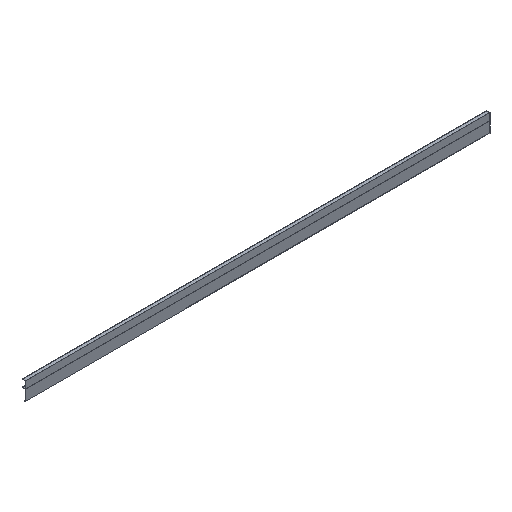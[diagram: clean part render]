
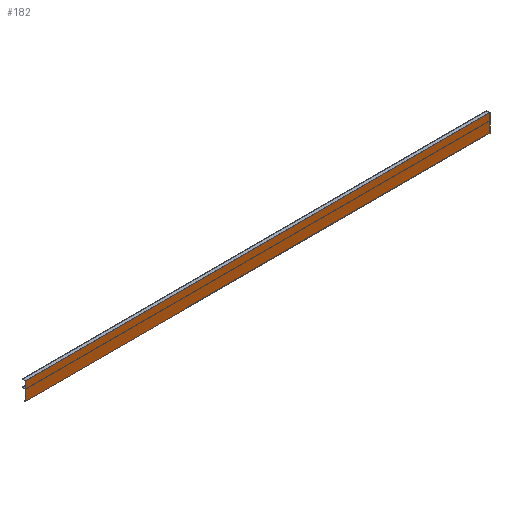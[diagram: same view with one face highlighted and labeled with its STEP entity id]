
A CAD part, isometric view. The second image highlights one B-rep face of the part: STEP entity #182.
In plain terms, the highlighted planar face has unit normal (0, -1, 0).
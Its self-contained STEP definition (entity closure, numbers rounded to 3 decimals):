
#182=ADVANCED_FACE('',(#372),#373,.T.);
#372=FACE_OUTER_BOUND('',#563,.T.);
#373=PLANE('',#564);
#563=EDGE_LOOP('',(#1053,#1054,#1055,#1056));
#564=AXIS2_PLACEMENT_3D('',#1057,#1058,#1059);
#1053=ORIENTED_EDGE('',*,*,#1317,.T.);
#1054=ORIENTED_EDGE('',*,*,#1347,.F.);
#1055=ORIENTED_EDGE('',*,*,#1348,.F.);
#1056=ORIENTED_EDGE('',*,*,#1344,.T.);
#1057=CARTESIAN_POINT('',(0.0,-15.5,0.0));
#1058=DIRECTION('',(0.0,-1.0,0.0));
#1059=DIRECTION('',(0.0,0.0,-1.0));
#1317=EDGE_CURVE('',#1618,#1616,#1619,.T.);
#1344=EDGE_CURVE('',#1660,#1618,#1661,.T.);
#1347=EDGE_CURVE('',#1664,#1616,#1665,.T.);
#1348=EDGE_CURVE('',#1660,#1664,#1666,.T.);
#1616=VERTEX_POINT('',#2019);
#1618=VERTEX_POINT('',#2022);
#1619=LINE('',#2023,#2024);
#1660=VERTEX_POINT('',#2085);
#1661=LINE('',#2086,#2087);
#1664=VERTEX_POINT('',#2091);
#1665=LINE('',#2092,#2093);
#1666=LINE('',#2094,#2095);
#2019=CARTESIAN_POINT('',(2050.0,-15.5,0.0));
#2022=CARTESIAN_POINT('',(2050.0,-15.5,-79.0));
#2023=CARTESIAN_POINT('',(2050.0,-15.5,-15.25));
#2024=VECTOR('',#2346,1.0);
#2085=CARTESIAN_POINT('',(0.0,-15.5,-79.0));
#2086=CARTESIAN_POINT('',(0.0,-15.5,-79.0));
#2087=VECTOR('',#2367,1.0);
#2091=CARTESIAN_POINT('',(0.0,-15.5,0.0));
#2092=CARTESIAN_POINT('',(0.0,-15.5,0.0));
#2093=VECTOR('',#2369,1.0);
#2094=CARTESIAN_POINT('',(0.0,-15.5,-61.0));
#2095=VECTOR('',#2370,1.0);
#2346=DIRECTION('',(0.0,0.0,1.0));
#2367=DIRECTION('',(1.0,0.0,0.0));
#2369=DIRECTION('',(1.0,0.0,0.0));
#2370=DIRECTION('',(0.0,0.0,1.0));
